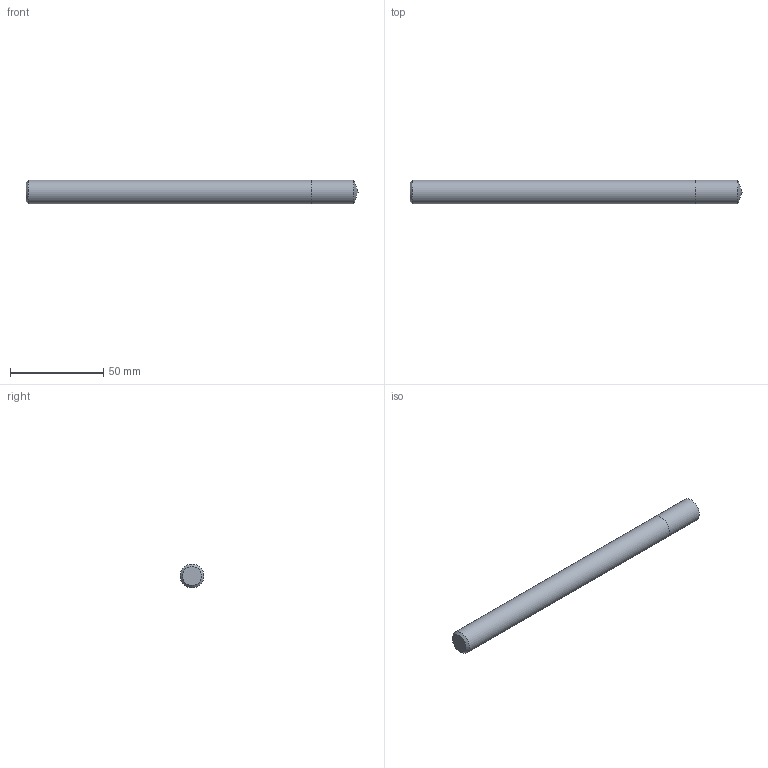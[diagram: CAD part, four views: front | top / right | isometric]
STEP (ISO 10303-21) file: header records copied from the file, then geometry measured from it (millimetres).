
FILE_DESCRIPTION (( 'STEP AP214' ), '1' );
FILE_NAME ('03-2234.STEP', '2022-02-07T07:07:09', ( 'USER' ), ( '' ), 'SwSTEP 2.0', 'SolidWorks 2018', '' );
FILE_SCHEMA (( 'AUTOMOTIVE_DESIGN' ));
Length unit declared in the file: millimetre
Products named in the file (1): 03-2234
Bounding box: 177.8 x 12.7 x 12.7 mm (x, y, z)
Volume: 22308.5 mm3; surface area: 7488.9 mm2
Topology: 2 solids, 2 shells, 7 faces, 11 edges, 7 vertices
Faces by surface type: plane 3, cylinder 2, cone 2
Full cylindrical faces by diameter (mm): 12.7 x2
Entity records: 189 total; most frequent: DIRECTION 26, CARTESIAN_POINT 18, AXIS2_PLACEMENT_3D 13, ORIENTED_EDGE 10, EDGE_LOOP 10, FACE_OUTER_BOUND 9, ADVANCED_FACE 7, UNCERTAINTY_MEASURE_WITH_UNIT 6
